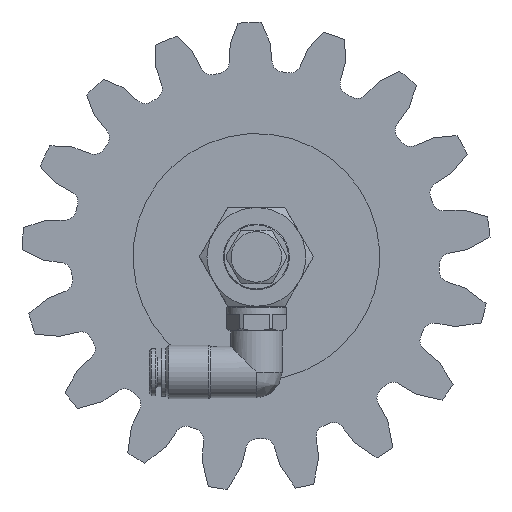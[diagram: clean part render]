
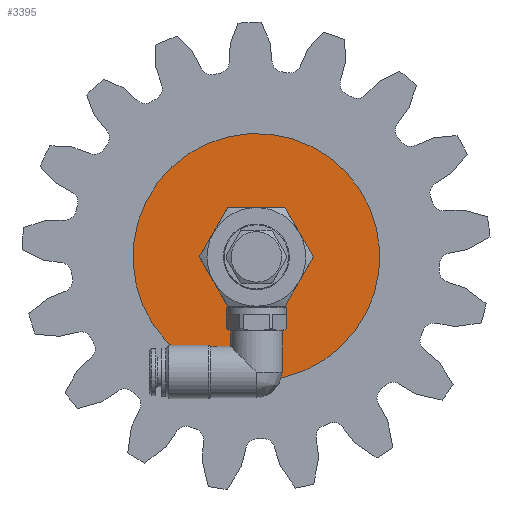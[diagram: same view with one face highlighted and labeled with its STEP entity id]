
A CAD part, front view. The second image highlights one B-rep face of the part: STEP entity #3395.
In plain terms, the highlighted planar face has unit normal (0, -1, 0) as drawn and (0, 0, 1) by its records, which use the part's own axes.
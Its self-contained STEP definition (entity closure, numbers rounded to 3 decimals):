
#1266 = AXIS2_PLACEMENT_3D ( 'NONE', #46530, #8664, #20459 ) ;
#3058 = CIRCLE ( 'NONE', #27405, 5.286 ) ;
#3395 = ADVANCED_FACE ( 'NONE', ( #16055, #31532 ), #19962, .F. ) ;
#4874 = CIRCLE ( 'NONE', #47321, 30. ) ;
#5694 = CARTESIAN_POINT ( 'NONE',  ( 0., 0., 0. ) ) ;
#8235 = ORIENTED_EDGE ( 'NONE', *, *, #24264, .T. ) ;
#8664 = DIRECTION ( 'NONE',  ( 0., 0., -1. ) ) ;
#11172 = CARTESIAN_POINT ( 'NONE',  ( 5.286, 0., 0. ) ) ;
#13062 = CARTESIAN_POINT ( 'NONE',  ( 0., 0., 0. ) ) ;
#14909 = EDGE_LOOP ( 'NONE', ( #35147 ) ) ;
#16055 = FACE_BOUND ( 'NONE', #14909, .T. ) ;
#16677 = CARTESIAN_POINT ( 'NONE',  ( 30., 0., 0. ) ) ;
#19962 = PLANE ( 'NONE',  #1266 ) ;
#20459 = DIRECTION ( 'NONE',  ( -1., 0., 0. ) ) ;
#22237 = EDGE_LOOP ( 'NONE', ( #8235 ) ) ;
#24264 = EDGE_CURVE ( 'NONE', #24265, #24265, #4874, .T. ) ;
#24265 = VERTEX_POINT ( 'NONE', #16677 ) ;
#27292 = DIRECTION ( 'NONE',  ( 0., 0., 1. ) ) ;
#27405 = AXIS2_PLACEMENT_3D ( 'NONE', #13062, #27292, #42318 ) ;
#31532 = FACE_OUTER_BOUND ( 'NONE', #22237, .T. ) ;
#35147 = ORIENTED_EDGE ( 'NONE', *, *, #41036, .F. ) ;
#39403 = DIRECTION ( 'NONE',  ( 1., 0., 0. ) ) ;
#41036 = EDGE_CURVE ( 'NONE', #44862, #44862, #3058, .T. ) ;
#42318 = DIRECTION ( 'NONE',  ( 1., 0., 0. ) ) ;
#43070 = DIRECTION ( 'NONE',  ( 0., 0., 1. ) ) ;
#44862 = VERTEX_POINT ( 'NONE', #11172 ) ;
#46530 = CARTESIAN_POINT ( 'NONE',  ( 0., 30., 0. ) ) ;
#47321 = AXIS2_PLACEMENT_3D ( 'NONE', #5694, #43070, #39403 ) ;
